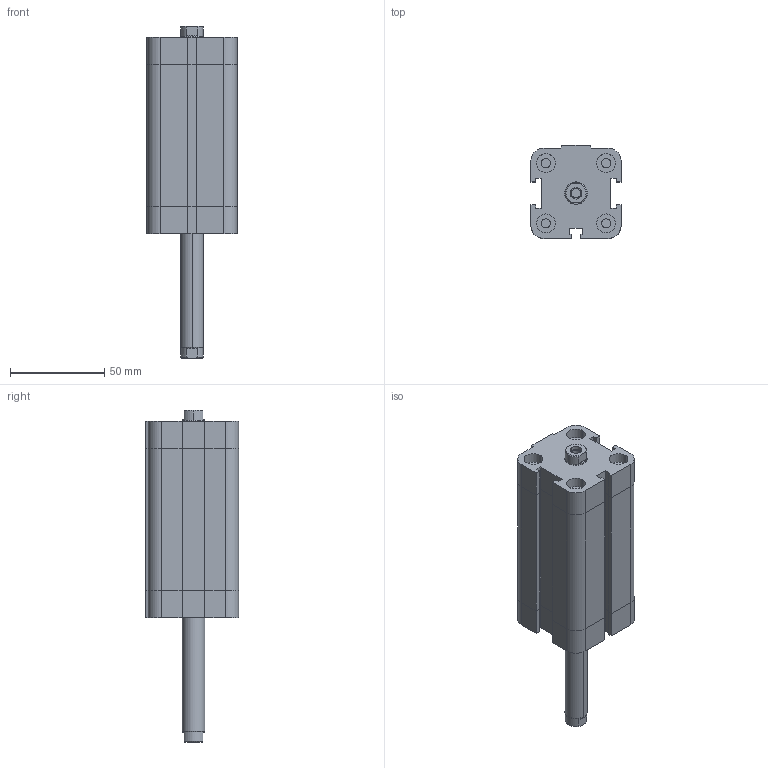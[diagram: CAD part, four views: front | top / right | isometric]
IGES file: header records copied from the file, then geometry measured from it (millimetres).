
Global section: file name: No Iges File Name specified; native system: Autodesk Inventor 2009; preprocessor: AutoDesk Inventor Iges Exporter R2009; author: maffial1; date: 20090420.200532; units: millimetre
Bounding box: 48 x 49.5 x 176.5 mm (x, y, z)
Volume: 220137.3 mm3; surface area: 43009.7 mm2
Topology: 2 solids, 2 shells, 202 faces, 450 edges, 274 vertices
Faces by surface type: plane 114, bspline 42, revolution 20, cylinder 18, cone 8
